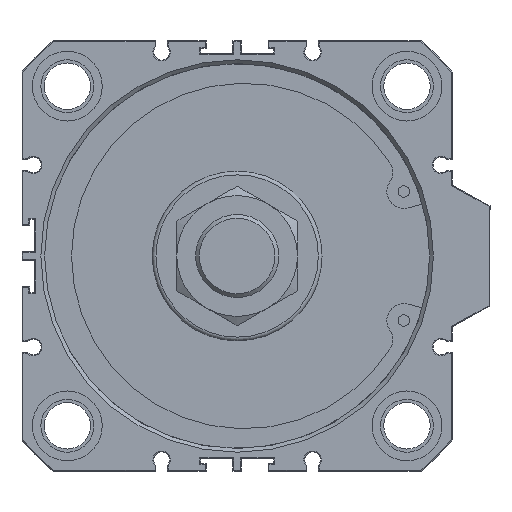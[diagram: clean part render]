
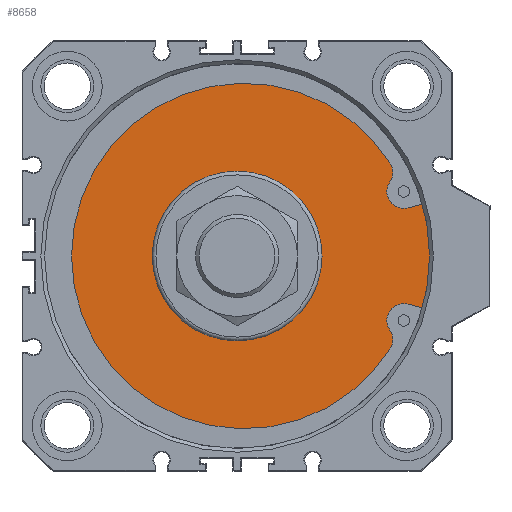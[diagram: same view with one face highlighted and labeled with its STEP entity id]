
A CAD part, front view. The second image highlights one B-rep face of the part: STEP entity #8658.
In plain terms, the highlighted planar face has unit normal (0, -1, 0).
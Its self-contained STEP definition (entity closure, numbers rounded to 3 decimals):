
#40=LINE('',#11740,#626);
#41=LINE('',#11753,#627);
#626=VECTOR('',#9885,1000.);
#627=VECTOR('',#9896,1000.);
#1272=PLANE('',#9132);
#1775=ORIENTED_EDGE('',*,*,#3332,.T.);
#1776=ORIENTED_EDGE('',*,*,#3333,.T.);
#1777=ORIENTED_EDGE('',*,*,#3334,.T.);
#1778=ORIENTED_EDGE('',*,*,#3335,.T.);
#1779=ORIENTED_EDGE('',*,*,#3336,.T.);
#1780=ORIENTED_EDGE('',*,*,#3337,.T.);
#1781=ORIENTED_EDGE('',*,*,#3338,.T.);
#1782=ORIENTED_EDGE('',*,*,#3339,.F.);
#1783=ORIENTED_EDGE('',*,*,#3328,.F.);
#3328=EDGE_CURVE('',#4129,#4129,#4602,.T.);
#3332=EDGE_CURVE('',#4133,#4134,#40,.T.);
#3333=EDGE_CURVE('',#4134,#4135,#4606,.T.);
#3334=EDGE_CURVE('',#4135,#4136,#4607,.T.);
#3335=EDGE_CURVE('',#4136,#4137,#4608,.T.);
#3336=EDGE_CURVE('',#4137,#4138,#4609,.T.);
#3337=EDGE_CURVE('',#4138,#4139,#4610,.T.);
#3338=EDGE_CURVE('',#4139,#4140,#41,.T.);
#3339=EDGE_CURVE('',#4133,#4140,#4611,.T.);
#4129=VERTEX_POINT('',#11729);
#4133=VERTEX_POINT('',#11741);
#4134=VERTEX_POINT('',#11742);
#4135=VERTEX_POINT('',#11744);
#4136=VERTEX_POINT('',#11746);
#4137=VERTEX_POINT('',#11748);
#4138=VERTEX_POINT('',#11750);
#4139=VERTEX_POINT('',#11752);
#4140=VERTEX_POINT('',#11754);
#4602=CIRCLE('',#9125,22.5);
#4606=CIRCLE('',#9133,4.5);
#4607=CIRCLE('',#9134,4.5);
#4608=CIRCLE('',#9135,45.77);
#4609=CIRCLE('',#9136,4.5);
#4610=CIRCLE('',#9137,4.5);
#4611=CIRCLE('',#9138,53.);
#4844=EDGE_LOOP('',(#1775,#1776,#1777,#1778,#1779,#1780,#1781,#1782));
#4845=EDGE_LOOP('',(#1783));
#5322=FACE_BOUND('',#4844,.T.);
#5323=FACE_BOUND('',#4845,.T.);
#8658=ADVANCED_FACE('',(#5322,#5323),#1272,.T.);
#9125=AXIS2_PLACEMENT_3D('',#11728,#9869,#9870);
#9132=AXIS2_PLACEMENT_3D('',#11739,#9883,#9884);
#9133=AXIS2_PLACEMENT_3D('',#11743,#9886,#9887);
#9134=AXIS2_PLACEMENT_3D('',#11745,#9888,#9889);
#9135=AXIS2_PLACEMENT_3D('',#11747,#9890,#9891);
#9136=AXIS2_PLACEMENT_3D('',#11749,#9892,#9893);
#9137=AXIS2_PLACEMENT_3D('',#11751,#9894,#9895);
#9138=AXIS2_PLACEMENT_3D('',#11755,#9897,#9898);
#9869=DIRECTION('',(0.,-1.,0.));
#9870=DIRECTION('',(1.,0.,0.));
#9883=DIRECTION('',(0.,-1.,0.));
#9884=DIRECTION('',(1.,0.,0.));
#9885=DIRECTION('',(-0.966,0.,-0.259));
#9886=DIRECTION('',(0.,1.,0.));
#9887=DIRECTION('',(1.,0.,0.));
#9888=DIRECTION('',(0.,-1.,0.));
#9889=DIRECTION('',(-1.,0.,0.));
#9890=DIRECTION('',(0.,-1.,0.));
#9891=DIRECTION('',(1.,0.,0.));
#9892=DIRECTION('',(0.,-1.,0.));
#9893=DIRECTION('',(-1.,0.,0.));
#9894=DIRECTION('',(0.,1.,0.));
#9895=DIRECTION('',(1.,0.,0.));
#9896=DIRECTION('',(0.966,0.,-0.259));
#9897=DIRECTION('',(0.,1.,0.));
#9898=DIRECTION('',(-1.,0.,0.));
#11728=CARTESIAN_POINT('',(0.,8.,0.));
#11729=CARTESIAN_POINT('',(22.5,8.,0.));
#11739=CARTESIAN_POINT('',(0.,8.,-53.));
#11740=CARTESIAN_POINT('',(51.039,8.,14.283));
#11741=CARTESIAN_POINT('',(51.039,8.,14.283));
#11742=CARTESIAN_POINT('',(45.35,8.,12.758));
#11743=CARTESIAN_POINT('',(44.185,8.,17.105));
#11744=CARTESIAN_POINT('',(40.45,8.,19.615));
#11745=CARTESIAN_POINT('',(36.73,8.,22.147));
#11746=CARTESIAN_POINT('',(40.642,8.,24.372));
#11747=CARTESIAN_POINT('',(1.9,8.,0.));
#11748=CARTESIAN_POINT('',(40.642,8.,-24.372));
#11749=CARTESIAN_POINT('',(36.73,8.,-22.147));
#11750=CARTESIAN_POINT('',(40.45,8.,-19.615));
#11751=CARTESIAN_POINT('',(44.185,8.,-17.105));
#11752=CARTESIAN_POINT('',(45.35,8.,-12.758));
#11753=CARTESIAN_POINT('',(45.35,8.,-12.758));
#11754=CARTESIAN_POINT('',(51.039,8.,-14.283));
#11755=CARTESIAN_POINT('',(0.,8.,0.));
